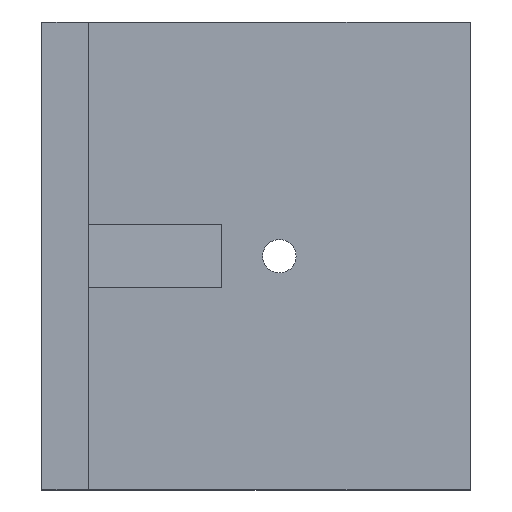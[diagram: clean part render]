
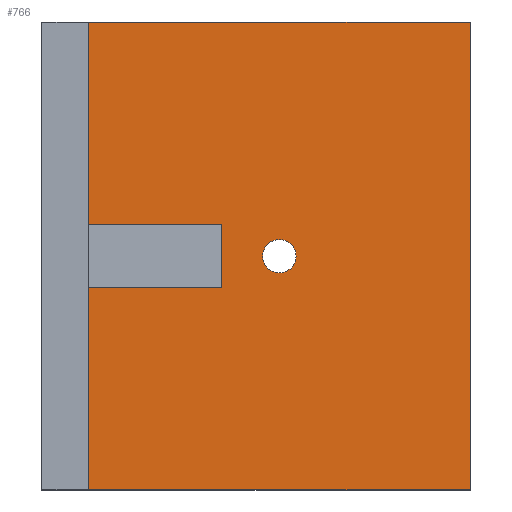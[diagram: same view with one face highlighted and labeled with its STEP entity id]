
A CAD part, top view. The second image highlights one B-rep face of the part: STEP entity #766.
In plain terms, the highlighted planar face has unit normal (0, 0, 1).
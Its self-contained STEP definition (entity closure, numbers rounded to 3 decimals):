
#44 = PLANE('',#45);
#45 = AXIS2_PLACEMENT_3D('',#46,#47,#48);
#46 = CARTESIAN_POINT('',(0.,-30.,0.));
#47 = DIRECTION('',(0.,1.,0.));
#48 = DIRECTION('',(0.,0.,1.));
#100 = PLANE('',#101);
#101 = AXIS2_PLACEMENT_3D('',#102,#103,#104);
#102 = CARTESIAN_POINT('',(0.,30.,0.));
#103 = DIRECTION('',(0.,1.,0.));
#104 = DIRECTION('',(0.,0.,1.));
#220 = VERTEX_POINT('',#221);
#221 = CARTESIAN_POINT('',(6.,-30.,6.));
#235 = PLANE('',#236);
#236 = AXIS2_PLACEMENT_3D('',#237,#238,#239);
#237 = CARTESIAN_POINT('',(6.,-30.,0.));
#238 = DIRECTION('',(1.,0.,0.));
#239 = DIRECTION('',(0.,0.,1.));
#247 = EDGE_CURVE('',#220,#248,#250,.T.);
#248 = VERTEX_POINT('',#249);
#249 = CARTESIAN_POINT('',(55.,-30.,6.));
#250 = SURFACE_CURVE('',#251,(#255,#262),.PCURVE_S1.);
#251 = LINE('',#252,#253);
#252 = CARTESIAN_POINT('',(0.,-30.,6.));
#253 = VECTOR('',#254,1.);
#254 = DIRECTION('',(1.,0.,0.));
#255 = PCURVE('',#44,#256);
#256 = DEFINITIONAL_REPRESENTATION('',(#257),#261);
#257 = LINE('',#258,#259);
#258 = CARTESIAN_POINT('',(6.,0.));
#259 = VECTOR('',#260,1.);
#260 = DIRECTION('',(0.,1.));
#261 = ( GEOMETRIC_REPRESENTATION_CONTEXT(2) 
PARAMETRIC_REPRESENTATION_CONTEXT() REPRESENTATION_CONTEXT('2D SPACE',''
  ) );
#262 = PCURVE('',#263,#268);
#263 = PLANE('',#264);
#264 = AXIS2_PLACEMENT_3D('',#265,#266,#267);
#265 = CARTESIAN_POINT('',(0.,-30.,6.));
#266 = DIRECTION('',(0.,0.,1.));
#267 = DIRECTION('',(1.,0.,0.));
#268 = DEFINITIONAL_REPRESENTATION('',(#269),#273);
#269 = LINE('',#270,#271);
#270 = CARTESIAN_POINT('',(0.,0.));
#271 = VECTOR('',#272,1.);
#272 = DIRECTION('',(1.,0.));
#273 = ( GEOMETRIC_REPRESENTATION_CONTEXT(2) 
PARAMETRIC_REPRESENTATION_CONTEXT() REPRESENTATION_CONTEXT('2D SPACE',''
  ) );
#289 = PLANE('',#290);
#290 = AXIS2_PLACEMENT_3D('',#291,#292,#293);
#291 = CARTESIAN_POINT('',(55.,-30.,0.));
#292 = DIRECTION('',(1.,0.,0.));
#293 = DIRECTION('',(0.,0.,1.));
#373 = CYLINDRICAL_SURFACE('',#374,2.15);
#374 = AXIS2_PLACEMENT_3D('',#375,#376,#377);
#375 = CARTESIAN_POINT('',(30.5,0.,6.));
#376 = DIRECTION('',(0.,0.,-1.));
#377 = DIRECTION('',(-1.,0.,0.));
#413 = VERTEX_POINT('',#414);
#414 = CARTESIAN_POINT('',(6.,30.,6.));
#435 = EDGE_CURVE('',#413,#436,#438,.T.);
#436 = VERTEX_POINT('',#437);
#437 = CARTESIAN_POINT('',(55.,30.,6.));
#438 = SURFACE_CURVE('',#439,(#443,#450),.PCURVE_S1.);
#439 = LINE('',#440,#441);
#440 = CARTESIAN_POINT('',(0.,30.,6.));
#441 = VECTOR('',#442,1.);
#442 = DIRECTION('',(1.,0.,0.));
#443 = PCURVE('',#100,#444);
#444 = DEFINITIONAL_REPRESENTATION('',(#445),#449);
#445 = LINE('',#446,#447);
#446 = CARTESIAN_POINT('',(6.,0.));
#447 = VECTOR('',#448,1.);
#448 = DIRECTION('',(0.,1.));
#449 = ( GEOMETRIC_REPRESENTATION_CONTEXT(2) 
PARAMETRIC_REPRESENTATION_CONTEXT() REPRESENTATION_CONTEXT('2D SPACE',''
  ) );
#450 = PCURVE('',#263,#451);
#451 = DEFINITIONAL_REPRESENTATION('',(#452),#456);
#452 = LINE('',#453,#454);
#453 = CARTESIAN_POINT('',(0.,60.));
#454 = VECTOR('',#455,1.);
#455 = DIRECTION('',(1.,0.));
#456 = ( GEOMETRIC_REPRESENTATION_CONTEXT(2) 
PARAMETRIC_REPRESENTATION_CONTEXT() REPRESENTATION_CONTEXT('2D SPACE',''
  ) );
#618 = EDGE_CURVE('',#220,#619,#621,.T.);
#619 = VERTEX_POINT('',#620);
#620 = CARTESIAN_POINT('',(6.,-4.05,6.));
#621 = SURFACE_CURVE('',#622,(#626,#632),.PCURVE_S1.);
#622 = LINE('',#623,#624);
#623 = CARTESIAN_POINT('',(6.,-30.,6.));
#624 = VECTOR('',#625,1.);
#625 = DIRECTION('',(0.,1.,0.));
#626 = PCURVE('',#235,#627);
#627 = DEFINITIONAL_REPRESENTATION('',(#628),#631);
#628 = B_SPLINE_CURVE_WITH_KNOTS('',1,(#629,#630),.UNSPECIFIED.,.F.,.F.,
  (2,2),(0.,60.),.PIECEWISE_BEZIER_KNOTS.);
#629 = CARTESIAN_POINT('',(6.,0.));
#630 = CARTESIAN_POINT('',(6.,-60.));
#631 = ( GEOMETRIC_REPRESENTATION_CONTEXT(2) 
PARAMETRIC_REPRESENTATION_CONTEXT() REPRESENTATION_CONTEXT('2D SPACE',''
  ) );
#632 = PCURVE('',#263,#633);
#633 = DEFINITIONAL_REPRESENTATION('',(#634),#637);
#634 = B_SPLINE_CURVE_WITH_KNOTS('',1,(#635,#636),.UNSPECIFIED.,.F.,.F.,
  (2,2),(0.,60.),.PIECEWISE_BEZIER_KNOTS.);
#635 = CARTESIAN_POINT('',(6.,0.));
#636 = CARTESIAN_POINT('',(6.,60.));
#637 = ( GEOMETRIC_REPRESENTATION_CONTEXT(2) 
PARAMETRIC_REPRESENTATION_CONTEXT() REPRESENTATION_CONTEXT('2D SPACE',''
  ) );
#655 = PLANE('',#656);
#656 = AXIS2_PLACEMENT_3D('',#657,#658,#659);
#657 = CARTESIAN_POINT('',(12.046,-4.05,12.046));
#658 = DIRECTION('',(-0.,-1.,-0.));
#659 = DIRECTION('',(0.,0.,-1.));
#681 = PLANE('',#682);
#682 = AXIS2_PLACEMENT_3D('',#683,#684,#685);
#683 = CARTESIAN_POINT('',(23.1,-4.05,6.));
#684 = DIRECTION('',(0.707,0.,0.707));
#685 = DIRECTION('',(-0.707,0.,0.707));
#719 = VERTEX_POINT('',#720);
#720 = CARTESIAN_POINT('',(6.,4.05,6.));
#734 = PLANE('',#735);
#735 = AXIS2_PLACEMENT_3D('',#736,#737,#738);
#736 = CARTESIAN_POINT('',(12.046,4.05,12.046));
#737 = DIRECTION('',(-0.,-1.,-0.));
#738 = DIRECTION('',(0.,0.,-1.));
#746 = EDGE_CURVE('',#719,#413,#747,.T.);
#747 = SURFACE_CURVE('',#748,(#752,#758),.PCURVE_S1.);
#748 = LINE('',#749,#750);
#749 = CARTESIAN_POINT('',(6.,-30.,6.));
#750 = VECTOR('',#751,1.);
#751 = DIRECTION('',(0.,1.,0.));
#752 = PCURVE('',#235,#753);
#753 = DEFINITIONAL_REPRESENTATION('',(#754),#757);
#754 = B_SPLINE_CURVE_WITH_KNOTS('',1,(#755,#756),.UNSPECIFIED.,.F.,.F.,
  (2,2),(0.,60.),.PIECEWISE_BEZIER_KNOTS.);
#755 = CARTESIAN_POINT('',(6.,0.));
#756 = CARTESIAN_POINT('',(6.,-60.));
#757 = ( GEOMETRIC_REPRESENTATION_CONTEXT(2) 
PARAMETRIC_REPRESENTATION_CONTEXT() REPRESENTATION_CONTEXT('2D SPACE',''
  ) );
#758 = PCURVE('',#263,#759);
#759 = DEFINITIONAL_REPRESENTATION('',(#760),#763);
#760 = B_SPLINE_CURVE_WITH_KNOTS('',1,(#761,#762),.UNSPECIFIED.,.F.,.F.,
  (2,2),(0.,60.),.PIECEWISE_BEZIER_KNOTS.);
#761 = CARTESIAN_POINT('',(6.,0.));
#762 = CARTESIAN_POINT('',(6.,60.));
#763 = ( GEOMETRIC_REPRESENTATION_CONTEXT(2) 
PARAMETRIC_REPRESENTATION_CONTEXT() REPRESENTATION_CONTEXT('2D SPACE',''
  ) );
#766 = ADVANCED_FACE('',(#767,#861),#263,.T.);
#767 = FACE_BOUND('',#768,.T.);
#768 = EDGE_LOOP('',(#769,#770,#771,#794,#817,#838,#839,#840));
#769 = ORIENTED_EDGE('',*,*,#435,.F.);
#770 = ORIENTED_EDGE('',*,*,#746,.F.);
#771 = ORIENTED_EDGE('',*,*,#772,.T.);
#772 = EDGE_CURVE('',#719,#773,#775,.T.);
#773 = VERTEX_POINT('',#774);
#774 = CARTESIAN_POINT('',(23.1,4.05,6.));
#775 = SURFACE_CURVE('',#776,(#780,#787),.PCURVE_S1.);
#776 = LINE('',#777,#778);
#777 = CARTESIAN_POINT('',(6.,4.05,6.));
#778 = VECTOR('',#779,1.);
#779 = DIRECTION('',(1.,0.,0.));
#780 = PCURVE('',#263,#781);
#781 = DEFINITIONAL_REPRESENTATION('',(#782),#786);
#782 = LINE('',#783,#784);
#783 = CARTESIAN_POINT('',(6.,34.05));
#784 = VECTOR('',#785,1.);
#785 = DIRECTION('',(1.,0.));
#786 = ( GEOMETRIC_REPRESENTATION_CONTEXT(2) 
PARAMETRIC_REPRESENTATION_CONTEXT() REPRESENTATION_CONTEXT('2D SPACE',''
  ) );
#787 = PCURVE('',#734,#788);
#788 = DEFINITIONAL_REPRESENTATION('',(#789),#793);
#789 = LINE('',#790,#791);
#790 = CARTESIAN_POINT('',(6.046,-6.046));
#791 = VECTOR('',#792,1.);
#792 = DIRECTION('',(0.,1.));
#793 = ( GEOMETRIC_REPRESENTATION_CONTEXT(2) 
PARAMETRIC_REPRESENTATION_CONTEXT() REPRESENTATION_CONTEXT('2D SPACE',''
  ) );
#794 = ORIENTED_EDGE('',*,*,#795,.F.);
#795 = EDGE_CURVE('',#796,#773,#798,.T.);
#796 = VERTEX_POINT('',#797);
#797 = CARTESIAN_POINT('',(23.1,-4.05,6.));
#798 = SURFACE_CURVE('',#799,(#803,#810),.PCURVE_S1.);
#799 = LINE('',#800,#801);
#800 = CARTESIAN_POINT('',(23.1,-4.05,6.));
#801 = VECTOR('',#802,1.);
#802 = DIRECTION('',(-0.,1.,-0.));
#803 = PCURVE('',#263,#804);
#804 = DEFINITIONAL_REPRESENTATION('',(#805),#809);
#805 = LINE('',#806,#807);
#806 = CARTESIAN_POINT('',(23.1,25.95));
#807 = VECTOR('',#808,1.);
#808 = DIRECTION('',(0.,1.));
#809 = ( GEOMETRIC_REPRESENTATION_CONTEXT(2) 
PARAMETRIC_REPRESENTATION_CONTEXT() REPRESENTATION_CONTEXT('2D SPACE',''
  ) );
#810 = PCURVE('',#681,#811);
#811 = DEFINITIONAL_REPRESENTATION('',(#812),#816);
#812 = LINE('',#813,#814);
#813 = CARTESIAN_POINT('',(0.,0.));
#814 = VECTOR('',#815,1.);
#815 = DIRECTION('',(0.,-1.));
#816 = ( GEOMETRIC_REPRESENTATION_CONTEXT(2) 
PARAMETRIC_REPRESENTATION_CONTEXT() REPRESENTATION_CONTEXT('2D SPACE',''
  ) );
#817 = ORIENTED_EDGE('',*,*,#818,.F.);
#818 = EDGE_CURVE('',#619,#796,#819,.T.);
#819 = SURFACE_CURVE('',#820,(#824,#831),.PCURVE_S1.);
#820 = LINE('',#821,#822);
#821 = CARTESIAN_POINT('',(6.,-4.05,6.));
#822 = VECTOR('',#823,1.);
#823 = DIRECTION('',(1.,0.,0.));
#824 = PCURVE('',#263,#825);
#825 = DEFINITIONAL_REPRESENTATION('',(#826),#830);
#826 = LINE('',#827,#828);
#827 = CARTESIAN_POINT('',(6.,25.95));
#828 = VECTOR('',#829,1.);
#829 = DIRECTION('',(1.,0.));
#830 = ( GEOMETRIC_REPRESENTATION_CONTEXT(2) 
PARAMETRIC_REPRESENTATION_CONTEXT() REPRESENTATION_CONTEXT('2D SPACE',''
  ) );
#831 = PCURVE('',#655,#832);
#832 = DEFINITIONAL_REPRESENTATION('',(#833),#837);
#833 = LINE('',#834,#835);
#834 = CARTESIAN_POINT('',(6.046,-6.046));
#835 = VECTOR('',#836,1.);
#836 = DIRECTION('',(0.,1.));
#837 = ( GEOMETRIC_REPRESENTATION_CONTEXT(2) 
PARAMETRIC_REPRESENTATION_CONTEXT() REPRESENTATION_CONTEXT('2D SPACE',''
  ) );
#838 = ORIENTED_EDGE('',*,*,#618,.F.);
#839 = ORIENTED_EDGE('',*,*,#247,.T.);
#840 = ORIENTED_EDGE('',*,*,#841,.T.);
#841 = EDGE_CURVE('',#248,#436,#842,.T.);
#842 = SURFACE_CURVE('',#843,(#847,#854),.PCURVE_S1.);
#843 = LINE('',#844,#845);
#844 = CARTESIAN_POINT('',(55.,-30.,6.));
#845 = VECTOR('',#846,1.);
#846 = DIRECTION('',(0.,1.,0.));
#847 = PCURVE('',#263,#848);
#848 = DEFINITIONAL_REPRESENTATION('',(#849),#853);
#849 = LINE('',#850,#851);
#850 = CARTESIAN_POINT('',(55.,0.));
#851 = VECTOR('',#852,1.);
#852 = DIRECTION('',(0.,1.));
#853 = ( GEOMETRIC_REPRESENTATION_CONTEXT(2) 
PARAMETRIC_REPRESENTATION_CONTEXT() REPRESENTATION_CONTEXT('2D SPACE',''
  ) );
#854 = PCURVE('',#289,#855);
#855 = DEFINITIONAL_REPRESENTATION('',(#856),#860);
#856 = LINE('',#857,#858);
#857 = CARTESIAN_POINT('',(6.,0.));
#858 = VECTOR('',#859,1.);
#859 = DIRECTION('',(0.,-1.));
#860 = ( GEOMETRIC_REPRESENTATION_CONTEXT(2) 
PARAMETRIC_REPRESENTATION_CONTEXT() REPRESENTATION_CONTEXT('2D SPACE',''
  ) );
#861 = FACE_BOUND('',#862,.T.);
#862 = EDGE_LOOP('',(#863));
#863 = ORIENTED_EDGE('',*,*,#864,.T.);
#864 = EDGE_CURVE('',#865,#865,#867,.T.);
#865 = VERTEX_POINT('',#866);
#866 = CARTESIAN_POINT('',(28.35,0.,6.));
#867 = SURFACE_CURVE('',#868,(#873,#884),.PCURVE_S1.);
#868 = CIRCLE('',#869,2.15);
#869 = AXIS2_PLACEMENT_3D('',#870,#871,#872);
#870 = CARTESIAN_POINT('',(30.5,0.,6.));
#871 = DIRECTION('',(0.,0.,-1.));
#872 = DIRECTION('',(-1.,0.,0.));
#873 = PCURVE('',#263,#874);
#874 = DEFINITIONAL_REPRESENTATION('',(#875),#883);
#875 = ( BOUNDED_CURVE() B_SPLINE_CURVE(2,(#876,#877,#878,#879,#880,#881
,#882),.UNSPECIFIED.,.T.,.F.) B_SPLINE_CURVE_WITH_KNOTS((1,2,2,2,2,1),(
    -2.094,0.,2.094,4.189,6.283,
8.378),.UNSPECIFIED.) CURVE() GEOMETRIC_REPRESENTATION_ITEM() 
RATIONAL_B_SPLINE_CURVE((1.,0.5,1.,0.5,1.,0.5,1.)) REPRESENTATION_ITEM(
  '') );
#876 = CARTESIAN_POINT('',(28.35,30.));
#877 = CARTESIAN_POINT('',(28.35,33.724));
#878 = CARTESIAN_POINT('',(31.575,31.862));
#879 = CARTESIAN_POINT('',(34.8,30.));
#880 = CARTESIAN_POINT('',(31.575,28.138));
#881 = CARTESIAN_POINT('',(28.35,26.276));
#882 = CARTESIAN_POINT('',(28.35,30.));
#883 = ( GEOMETRIC_REPRESENTATION_CONTEXT(2) 
PARAMETRIC_REPRESENTATION_CONTEXT() REPRESENTATION_CONTEXT('2D SPACE',''
  ) );
#884 = PCURVE('',#373,#885);
#885 = DEFINITIONAL_REPRESENTATION('',(#886),#890);
#886 = LINE('',#887,#888);
#887 = CARTESIAN_POINT('',(0.,0.));
#888 = VECTOR('',#889,1.);
#889 = DIRECTION('',(1.,0.));
#890 = ( GEOMETRIC_REPRESENTATION_CONTEXT(2) 
PARAMETRIC_REPRESENTATION_CONTEXT() REPRESENTATION_CONTEXT('2D SPACE',''
  ) );
